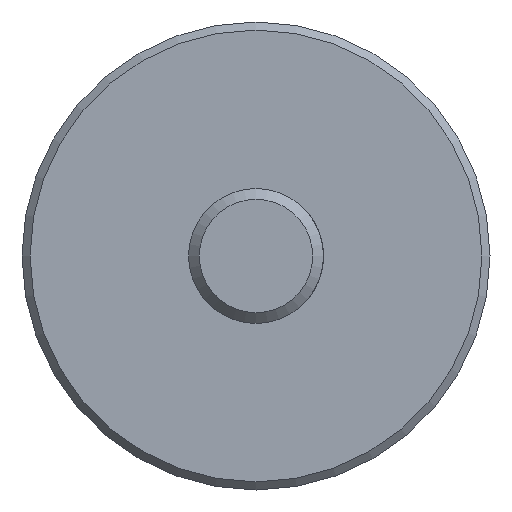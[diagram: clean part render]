
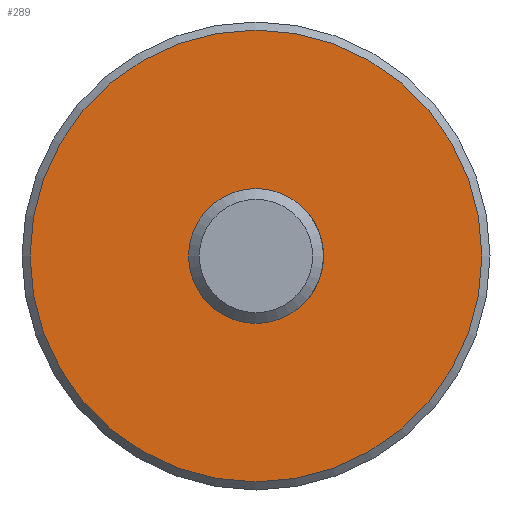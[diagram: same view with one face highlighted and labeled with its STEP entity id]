
A CAD part, front view. The second image highlights one B-rep face of the part: STEP entity #289.
In plain terms, the highlighted planar face has unit normal (0, -1, 0).
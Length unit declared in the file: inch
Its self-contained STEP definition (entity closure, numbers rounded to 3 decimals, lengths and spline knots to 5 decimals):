
#14 = AXIS2_PLACEMENT_3D ( 'NONE', #35, #303, #398 ) ;
#23 = ORIENTED_EDGE ( 'NONE', *, *, #566, .T. ) ;
#35 = CARTESIAN_POINT ( 'NONE',  ( 0.375, 3.28, 0. ) ) ;
#36 = VERTEX_POINT ( 'NONE', #260 ) ;
#96 = DIRECTION ( 'NONE',  ( 0., 1., 0. ) ) ;
#108 = EDGE_CURVE ( 'NONE', #271, #271, #351, .T. ) ;
#141 = CARTESIAN_POINT ( 'NONE',  ( 0., 3.28, 1.255 ) ) ;
#167 = DIRECTION ( 'NONE',  ( 0., 1., 0. ) ) ;
#181 = DIRECTION ( 'NONE',  ( 0., 0., 1. ) ) ;
#254 = PLANE ( 'NONE',  #14 ) ;
#258 = CARTESIAN_POINT ( 'NONE',  ( 0., 3.28, 0. ) ) ;
#260 = CARTESIAN_POINT ( 'NONE',  ( 0., 3.28, 0.375 ) ) ;
#271 = VERTEX_POINT ( 'NONE', #141 ) ;
#284 = EDGE_LOOP ( 'NONE', ( #336 ) ) ;
#289 = ADVANCED_FACE ( 'NONE', ( #290, #569 ), #254, .F. ) ;
#290 = FACE_OUTER_BOUND ( 'NONE', #284, .T. ) ;
#303 = DIRECTION ( 'NONE',  ( 0., 1., 0. ) ) ;
#315 = CARTESIAN_POINT ( 'NONE',  ( 0., 3.28, 0. ) ) ;
#336 = ORIENTED_EDGE ( 'NONE', *, *, #108, .F. ) ;
#351 = CIRCLE ( 'NONE', #375, 1.255 ) ;
#375 = AXIS2_PLACEMENT_3D ( 'NONE', #258, #167, #181 ) ;
#398 = DIRECTION ( 'NONE',  ( 0., 0., 1. ) ) ;
#499 = DIRECTION ( 'NONE',  ( 0., 0., 1. ) ) ;
#533 = CIRCLE ( 'NONE', #549, 0.375 ) ;
#545 = EDGE_LOOP ( 'NONE', ( #23 ) ) ;
#549 = AXIS2_PLACEMENT_3D ( 'NONE', #315, #96, #499 ) ;
#566 = EDGE_CURVE ( 'NONE', #36, #36, #533, .T. ) ;
#569 = FACE_BOUND ( 'NONE', #545, .T. ) ;
